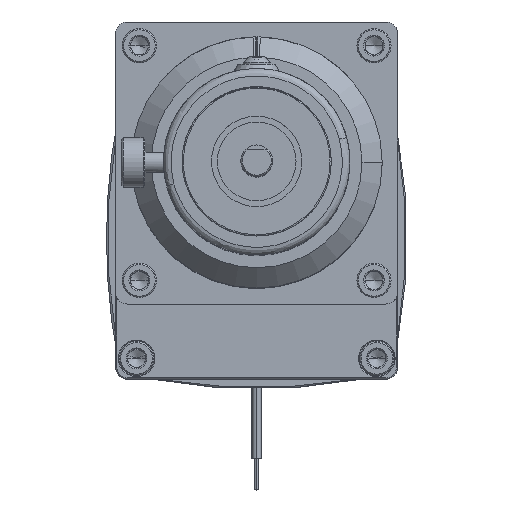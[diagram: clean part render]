
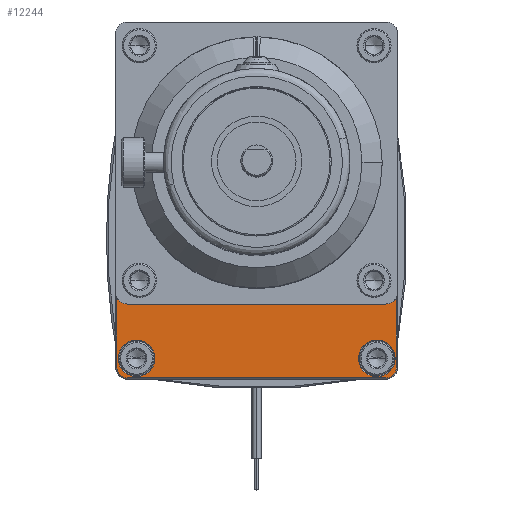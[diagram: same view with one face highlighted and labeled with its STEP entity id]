
A CAD part, top view. The second image highlights one B-rep face of the part: STEP entity #12244.
In plain terms, the highlighted planar face has unit normal (0, 0, 1).
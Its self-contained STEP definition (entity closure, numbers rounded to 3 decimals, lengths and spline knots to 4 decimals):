
#647 = DIRECTION ( 'NONE',  ( 0., 0., 1. ) ) ;
#652 = CARTESIAN_POINT ( 'NONE',  ( 0., -0.7544, -19.5631 ) ) ;
#654 = PLANE ( 'NONE',  #29469 ) ;
#656 = DIRECTION ( 'NONE',  ( 0., -1., 0. ) ) ;
#2414 = VERTEX_POINT ( 'NONE', #11199 ) ;
#2660 = VERTEX_POINT ( 'NONE', #35870 ) ;
#2863 = VERTEX_POINT ( 'NONE', #35898 ) ;
#2872 = VERTEX_POINT ( 'NONE', #35891 ) ;
#4339 = LINE ( 'NONE', #62642, #4342 ) ;
#4342 = VECTOR ( 'NONE', #62643, 100. ) ;
#4379 = CIRCLE ( 'NONE', #18956, 0.2134 ) ;
#4536 = CIRCLE ( 'NONE', #18986, 0.2134 ) ;
#4842 = LINE ( 'NONE', #64537, #4843 ) ;
#4843 = VECTOR ( 'NONE', #64539, 100. ) ;
#4899 = CIRCLE ( 'NONE', #19046, 0.3683 ) ;
#4927 = CIRCLE ( 'NONE', #19050, 0.3683 ) ;
#4970 = LINE ( 'NONE', #65050, #4982 ) ;
#4982 = VECTOR ( 'NONE', #65064, 100. ) ;
#11199 = CARTESIAN_POINT ( 'NONE',  ( -2.0447, -3.9218, -19.5631 ) ) ;
#12244 = ADVANCED_FACE ( 'NONE', ( #35163, #35166, #35156 ), #654, .T. ) ;
#18034 = CARTESIAN_POINT ( 'NONE',  ( -2.8067, -4.1021, -19.5631 ) ) ;
#18041 = CARTESIAN_POINT ( 'NONE',  ( -2.5933, -4.3155, -19.5631 ) ) ;
#18045 = CARTESIAN_POINT ( 'NONE',  ( -2.8067, -2.7011, -19.5631 ) ) ;
#18051 = CARTESIAN_POINT ( 'NONE',  ( 2.5941, -2.8321, -19.5631 ) ) ;
#18113 = CARTESIAN_POINT ( 'NONE',  ( -2.5941, -2.8321, -19.5631 ) ) ;
#18167 = CARTESIAN_POINT ( 'NONE',  ( 2.8067, -2.7011, -19.5631 ) ) ;
#18175 = CARTESIAN_POINT ( 'NONE',  ( 2.5933, -4.3155, -19.5631 ) ) ;
#18179 = CARTESIAN_POINT ( 'NONE',  ( 2.8067, -4.1021, -19.5631 ) ) ;
#18361 = AXIS2_PLACEMENT_3D ( 'NONE', #48643, #48644, #48645 ) ;
#18364 = AXIS2_PLACEMENT_3D ( 'NONE', #48653, #48654, #48655 ) ;
#18567 = AXIS2_PLACEMENT_3D ( 'NONE', #45887, #45888, #45889 ) ;
#18568 = AXIS2_PLACEMENT_3D ( 'NONE', #45893, #45894, #45895 ) ;
#18956 = AXIS2_PLACEMENT_3D ( 'NONE', #62746, #62747, #62748 ) ;
#18986 = AXIS2_PLACEMENT_3D ( 'NONE', #63019, #63020, #63021 ) ;
#19046 = AXIS2_PLACEMENT_3D ( 'NONE', #64754, #64756, #64758 ) ;
#19050 = AXIS2_PLACEMENT_3D ( 'NONE', #64875, #64876, #64878 ) ;
#21015 = VERTEX_POINT ( 'NONE', #18034 ) ;
#21030 = VERTEX_POINT ( 'NONE', #18041 ) ;
#21039 = VERTEX_POINT ( 'NONE', #18045 ) ;
#21052 = VERTEX_POINT ( 'NONE', #18051 ) ;
#21185 = VERTEX_POINT ( 'NONE', #18113 ) ;
#21301 = VERTEX_POINT ( 'NONE', #18167 ) ;
#21318 = VERTEX_POINT ( 'NONE', #18175 ) ;
#21327 = VERTEX_POINT ( 'NONE', #18179 ) ;
#29469 = AXIS2_PLACEMENT_3D ( 'NONE', #652, #647, #656 ) ;
#35156 = FACE_OUTER_BOUND ( 'NONE', #40457, .T. ) ;
#35163 = FACE_BOUND ( 'NONE', #40640, .T. ) ;
#35166 = FACE_BOUND ( 'NONE', #40678, .T. ) ;
#35870 = CARTESIAN_POINT ( 'NONE',  ( -2.7813, -3.9218, -19.5631 ) ) ;
#35891 = CARTESIAN_POINT ( 'NONE',  ( 2.0447, -3.9218, -19.5631 ) ) ;
#35898 = CARTESIAN_POINT ( 'NONE',  ( 2.7813, -3.9218, -19.5631 ) ) ;
#40457 = EDGE_LOOP ( 'NONE', ( #64661, #64666, #64684, #64669, #64674, #64779, #64680, #64697 ) ) ;
#40640 = EDGE_LOOP ( 'NONE', ( #64442, #64660 ) ) ;
#40678 = EDGE_LOOP ( 'NONE', ( #64776, #64652 ) ) ;
#43059 = EDGE_CURVE ( 'NONE', #2863, #2872, #53091, .T. ) ;
#43063 = EDGE_CURVE ( 'NONE', #2414, #2660, #53098, .T. ) ;
#43511 = CIRCLE ( 'NONE', #18567, 0.238 ) ;
#43512 = LINE ( 'NONE', #45885, #43516 ) ;
#43513 = CIRCLE ( 'NONE', #18568, 0.238 ) ;
#43516 = VECTOR ( 'NONE', #45890, 100. ) ;
#44818 = EDGE_CURVE ( 'NONE', #21052, #21301, #43511, .T. ) ;
#44820 = EDGE_CURVE ( 'NONE', #21185, #21052, #43512, .T. ) ;
#44821 = EDGE_CURVE ( 'NONE', #21039, #21185, #43513, .T. ) ;
#45885 = CARTESIAN_POINT ( 'NONE',  ( 0., -2.8321, -19.5631 ) ) ;
#45887 = CARTESIAN_POINT ( 'NONE',  ( 2.5941, -2.5941, -19.5631 ) ) ;
#45888 = DIRECTION ( 'NONE',  ( 0., 0., 1. ) ) ;
#45889 = DIRECTION ( 'NONE',  ( -1., 0., 0. ) ) ;
#45890 = DIRECTION ( 'NONE',  ( 1., 0., 0. ) ) ;
#45893 = CARTESIAN_POINT ( 'NONE',  ( -2.5941, -2.5941, -19.5631 ) ) ;
#45894 = DIRECTION ( 'NONE',  ( 0., 0., 1. ) ) ;
#45895 = DIRECTION ( 'NONE',  ( -1., 0., 0. ) ) ;
#48643 = CARTESIAN_POINT ( 'NONE',  ( 2.413, -3.9218, -19.5631 ) ) ;
#48644 = DIRECTION ( 'NONE',  ( 0., 0., -1. ) ) ;
#48645 = DIRECTION ( 'NONE',  ( 1., 0., 0. ) ) ;
#48653 = CARTESIAN_POINT ( 'NONE',  ( -2.413, -3.9218, -19.5631 ) ) ;
#48654 = DIRECTION ( 'NONE',  ( 0., 0., -1. ) ) ;
#48655 = DIRECTION ( 'NONE',  ( 1., 0., 0. ) ) ;
#53091 = CIRCLE ( 'NONE', #18361, 0.3683 ) ;
#53098 = CIRCLE ( 'NONE', #18364, 0.3683 ) ;
#59809 = EDGE_CURVE ( 'NONE', #21327, #21301, #4339, .T. ) ;
#59837 = EDGE_CURVE ( 'NONE', #21015, #21030, #4379, .T. ) ;
#59939 = EDGE_CURVE ( 'NONE', #21318, #21327, #4536, .T. ) ;
#60141 = EDGE_CURVE ( 'NONE', #21030, #21318, #4842, .T. ) ;
#60177 = EDGE_CURVE ( 'NONE', #2872, #2863, #4899, .T. ) ;
#60195 = EDGE_CURVE ( 'NONE', #2660, #2414, #4927, .T. ) ;
#60229 = EDGE_CURVE ( 'NONE', #21039, #21015, #4970, .T. ) ;
#62642 = CARTESIAN_POINT ( 'NONE',  ( 2.8067, -0.7544, -19.5631 ) ) ;
#62643 = DIRECTION ( 'NONE',  ( 0., 1., 0. ) ) ;
#62746 = CARTESIAN_POINT ( 'NONE',  ( -2.5933, -4.1021, -19.5631 ) ) ;
#62747 = DIRECTION ( 'NONE',  ( 0., 0., 1. ) ) ;
#62748 = DIRECTION ( 'NONE',  ( -1., 0., 0. ) ) ;
#63019 = CARTESIAN_POINT ( 'NONE',  ( 2.5933, -4.1021, -19.5631 ) ) ;
#63020 = DIRECTION ( 'NONE',  ( 0., 0., 1. ) ) ;
#63021 = DIRECTION ( 'NONE',  ( 0., 1., 0. ) ) ;
#64442 = ORIENTED_EDGE ( 'NONE', *, *, #43063, .T. ) ;
#64537 = CARTESIAN_POINT ( 'NONE',  ( 0., -4.3155, -19.5631 ) ) ;
#64539 = DIRECTION ( 'NONE',  ( 1., 0., 0. ) ) ;
#64652 = ORIENTED_EDGE ( 'NONE', *, *, #60177, .T. ) ;
#64660 = ORIENTED_EDGE ( 'NONE', *, *, #60195, .T. ) ;
#64661 = ORIENTED_EDGE ( 'NONE', *, *, #59809, .T. ) ;
#64666 = ORIENTED_EDGE ( 'NONE', *, *, #44818, .F. ) ;
#64669 = ORIENTED_EDGE ( 'NONE', *, *, #44821, .F. ) ;
#64674 = ORIENTED_EDGE ( 'NONE', *, *, #60229, .T. ) ;
#64680 = ORIENTED_EDGE ( 'NONE', *, *, #60141, .T. ) ;
#64684 = ORIENTED_EDGE ( 'NONE', *, *, #44820, .F. ) ;
#64697 = ORIENTED_EDGE ( 'NONE', *, *, #59939, .T. ) ;
#64754 = CARTESIAN_POINT ( 'NONE',  ( 2.413, -3.9218, -19.5631 ) ) ;
#64756 = DIRECTION ( 'NONE',  ( 0., 0., -1. ) ) ;
#64758 = DIRECTION ( 'NONE',  ( 1., 0., 0. ) ) ;
#64776 = ORIENTED_EDGE ( 'NONE', *, *, #43059, .T. ) ;
#64779 = ORIENTED_EDGE ( 'NONE', *, *, #59837, .T. ) ;
#64875 = CARTESIAN_POINT ( 'NONE',  ( -2.413, -3.9218, -19.5631 ) ) ;
#64876 = DIRECTION ( 'NONE',  ( 0., 0., -1. ) ) ;
#64878 = DIRECTION ( 'NONE',  ( 1., 0., 0. ) ) ;
#65050 = CARTESIAN_POINT ( 'NONE',  ( -2.8067, -0.7544, -19.5631 ) ) ;
#65064 = DIRECTION ( 'NONE',  ( 0., -1., 0. ) ) ;
